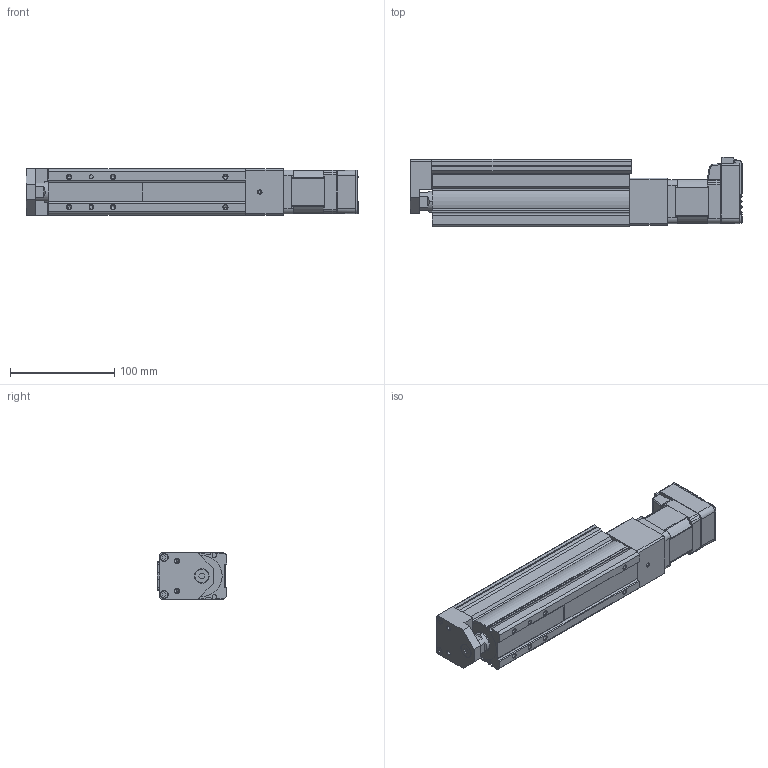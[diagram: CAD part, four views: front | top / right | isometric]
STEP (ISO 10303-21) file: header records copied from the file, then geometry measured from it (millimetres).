
FILE_DESCRIPTION (( 'STEP AP214' ), '1' );
FILE_NAME ('LESYH3(+)-16DNM1□-100-17L.STEP', '2023-04-18T00:05:52', ( '' ), ( '' ), 'SwSTEP 2.0', 'SolidWorks 2019', '' );
FILE_SCHEMA (( 'AUTOMOTIVE_DESIGN' ));
Length unit declared in the file: millimetre
Products named in the file (5): LESYH3(+)-16DNM1□-100-17L; LESYH3(+)-16仏NM1仩-100_TABLE; CM3(+)-17L50A; LESYH3(+)-16DNM1□_MOTOR Flange; LESYH3(+)-16仏NM1仩-100_BODY
Assembly tree (4 placements, depth 2):
  LESYH3(+)-16DNM1□-100-17L
    LESYH3(+)-16仏NM1仩-100_BODY
    LESYH3(+)-16仏NM1仩-100_TABLE
    LESYH3(+)-16DNM1□_MOTOR Flange
    CM3(+)-17L50A
Bounding box: 318.8 x 66.75 x 45 mm (x, y, z)
Volume: 694200.1 mm3; surface area: 134273.2 mm2
Topology: 4 solids, 4 shells, 1076 faces, 2728 edges, 1709 vertices
Faces by surface type: plane 533, cylinder 327, cone 135, torus 31, bspline 29, sphere 21
Entity records: 41608 total; most frequent: CARTESIAN_POINT 7633, ORIENTED_EDGE 5382, DIRECTION 5273, EDGE_CURVE 2691, AXIS2_PLACEMENT_3D 1789, VERTEX_POINT 1709, VECTOR 1695, LINE 1695
